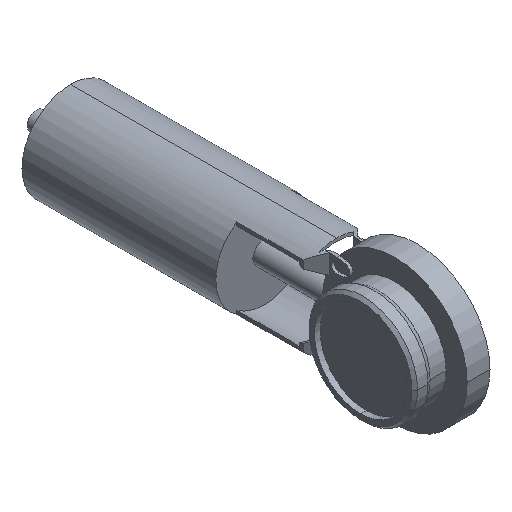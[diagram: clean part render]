
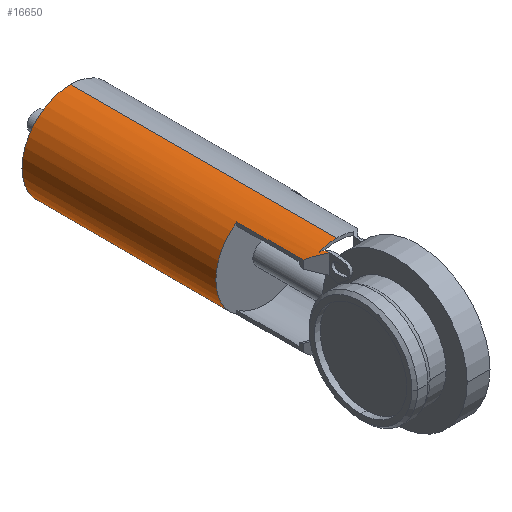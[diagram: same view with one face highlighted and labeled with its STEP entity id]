
A CAD part, isometric view. The second image highlights one B-rep face of the part: STEP entity #16650.
In plain terms, the highlighted cylindrical face has radius 42.5 mm (diameter 85 mm), a partial arc.
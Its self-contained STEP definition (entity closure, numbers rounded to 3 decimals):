
#9360=CARTESIAN_POINT('',(-113.184,106.406,
-39.743));
#9370=VERTEX_POINT('',#9360);
#9400=CARTESIAN_POINT('',(-98.126,91.348,
0.));
#9410=DIRECTION('',(0.707,0.707,0.));
#9420=DIRECTION('',(0.707,-0.707,0.));
#9430=AXIS2_PLACEMENT_3D('',#9400,#9410,#9420);
#9440=ELLIPSE('',#9430,60.104,42.5);
#9450=CARTESIAN_POINT('',(-108.126,101.348,
-41.307));
#9460=VERTEX_POINT('',#9450);
#9470=EDGE_CURVE('',#9460,#9370,#9440,.T.);
#10890=CARTESIAN_POINT('',(-110.626,93.857,
-40.62));
#10900=VERTEX_POINT('',#10890);
#10930=CARTESIAN_POINT('',(-110.626,366.667,
-40.62));
#10940=DIRECTION('',(0.,-1.,0.));
#10950=VECTOR('',#10940,1.);
#10960=LINE('',#10930,#10950);
#10970=CARTESIAN_POINT('',(-110.626,100.312,
-40.62));
#10980=VERTEX_POINT('',#10970);
#10990=EDGE_CURVE('',#10980,#10900,#10960,.T.);
#12400=CARTESIAN_POINT('',(-98.126,87.812,
0.));
#12410=DIRECTION('',(0.707,0.707,0.));
#12420=DIRECTION('',(0.707,-0.707,0.));
#12430=AXIS2_PLACEMENT_3D('',#12400,#12410,#12420);
#12440=ELLIPSE('',#12430,60.104,42.5);
#12450=CARTESIAN_POINT('',(-122.126,111.812,
-35.075));
#12460=VERTEX_POINT('',#12450);
#12470=EDGE_CURVE('',#10980,#12460,#12440,.T.);
#15390=CARTESIAN_POINT('',(-98.126,169.806,
0.));
#15400=DIRECTION('',(0.,-1.,0.));
#15410=DIRECTION('',(0.,0.,-1.));
#15420=AXIS2_PLACEMENT_3D('',#15390,#15400,#15410);
#15430=CYLINDRICAL_SURFACE('',#15420,42.5);
#15440=CARTESIAN_POINT('',(-98.126,169.806,42.5));
#15450=DIRECTION('',(0.,-1.,0.));
#15460=VECTOR('',#15450,1.);
#15470=LINE('',#15440,#15460);
#15480=CARTESIAN_POINT('',(-98.126,339.806,42.5));
#15490=VERTEX_POINT('',#15480);
#15500=CARTESIAN_POINT('',(-98.126,106.406,42.5));
#15510=VERTEX_POINT('',#15500);
#15520=EDGE_CURVE('',#15490,#15510,#15470,.T.);
#15530=ORIENTED_EDGE('',*,*,#15520,.F.);
#15540=CARTESIAN_POINT('',(-98.126,106.406,
0.));
#15550=DIRECTION('',(0.,-1.,0.));
#15560=DIRECTION('',(0.,0.,1.));
#15570=AXIS2_PLACEMENT_3D('',#15540,#15550,#15560);
#15580=CIRCLE('',#15570,42.5);
#15590=CARTESIAN_POINT('',(-113.184,106.406,
39.743));
#15600=VERTEX_POINT('',#15590);
#15610=EDGE_CURVE('',#15510,#15600,#15580,.T.);
#15620=ORIENTED_EDGE('',*,*,#15610,.F.);
#15630=CARTESIAN_POINT('',(-98.126,91.348,
0.));
#15640=DIRECTION('',(0.707,0.707,0.));
#15650=DIRECTION('',(-0.707,0.707,0.));
#15660=AXIS2_PLACEMENT_3D('',#15630,#15640,#15650);
#15670=ELLIPSE('',#15660,60.104,42.5);
#15680=CARTESIAN_POINT('',(-110.626,103.848,
40.62));
#15690=VERTEX_POINT('',#15680);
#15700=EDGE_CURVE('',#15600,#15690,#15670,.T.);
#15710=ORIENTED_EDGE('',*,*,#15700,.F.);
#15720=CARTESIAN_POINT('',(-110.626,366.667,
40.62));
#15730=DIRECTION('',(0.,-1.,0.));
#15740=VECTOR('',#15730,1.);
#15750=LINE('',#15720,#15740);
#15760=CARTESIAN_POINT('',(-110.626,100.312,
40.62));
#15770=VERTEX_POINT('',#15760);
#15780=EDGE_CURVE('',#15690,#15770,#15750,.T.);
#15790=ORIENTED_EDGE('',*,*,#15780,.F.);
#15800=CARTESIAN_POINT('',(-98.126,87.812,
0.));
#15810=DIRECTION('',(-0.707,-0.707,0.));
#15820=DIRECTION('',(0.707,-0.707,0.));
#15830=AXIS2_PLACEMENT_3D('',#15800,#15810,#15820);
#15840=ELLIPSE('',#15830,60.104,42.5);
#15850=CARTESIAN_POINT('',(-122.126,111.812,
35.075));
#15860=VERTEX_POINT('',#15850);
#15870=EDGE_CURVE('',#15770,#15860,#15840,.T.);
#15880=ORIENTED_EDGE('',*,*,#15870,.F.);
#15890=CARTESIAN_POINT('',(-122.126,366.667,
35.075));
#15900=DIRECTION('',(0.,-1.,0.));
#15910=VECTOR('',#15900,1.);
#15920=LINE('',#15890,#15910);
#15930=CARTESIAN_POINT('',(-122.126,169.806,
35.075));
#15940=VERTEX_POINT('',#15930);
#15950=EDGE_CURVE('',#15940,#15860,#15920,.T.);
#15960=ORIENTED_EDGE('',*,*,#15950,.T.);
#15970=CARTESIAN_POINT('',(-98.126,169.806,
0.));
#15980=DIRECTION('',(0.,-1.,0.));
#15990=DIRECTION('',(0.,0.,1.));
#16000=AXIS2_PLACEMENT_3D('',#15970,#15980,#15990);
#16010=CIRCLE('',#16000,42.5);
#16020=CARTESIAN_POINT('',(-122.126,169.806,
-35.075));
#16030=VERTEX_POINT('',#16020);
#16040=EDGE_CURVE('',#15940,#16030,#16010,.T.);
#16050=ORIENTED_EDGE('',*,*,#16040,.F.);
#16060=CARTESIAN_POINT('',(-122.126,366.667,
-35.075));
#16070=DIRECTION('',(0.,-1.,0.));
#16080=VECTOR('',#16070,1.);
#16090=LINE('',#16060,#16080);
#16100=EDGE_CURVE('',#16030,#12460,#16090,.T.);
#16110=ORIENTED_EDGE('',*,*,#16100,.F.);
#16120=ORIENTED_EDGE('',*,*,#12470,.T.);
#16130=ORIENTED_EDGE('',*,*,#10990,.F.);
#16140=CARTESIAN_POINT('',(-98.126,-262.662,
0.));
#16150=DIRECTION('',(0.,-0.113,-0.994));
#16160=DIRECTION('',(0.,0.994,-0.113));
#16170=AXIS2_PLACEMENT_3D('',#16140,#16150,#16160);
#16180=ELLIPSE('',#16170,375.431,42.5);
#16190=CARTESIAN_POINT('',(-108.774,98.46,
-41.145));
#16200=VERTEX_POINT('',#16190);
#16210=EDGE_CURVE('',#10900,#16200,#16180,.T.);
#16220=ORIENTED_EDGE('',*,*,#16210,.F.);
#16230=CARTESIAN_POINT('',(-98.126,87.812,
0.));
#16240=DIRECTION('',(-0.707,-0.707,0.));
#16250=DIRECTION('',(-0.707,0.707,0.));
#16260=AXIS2_PLACEMENT_3D('',#16230,#16240,#16250);
#16270=ELLIPSE('',#16260,60.104,42.5);
#16280=CARTESIAN_POINT('',(-108.126,97.812,
-41.307));
#16290=VERTEX_POINT('',#16280);
#16300=EDGE_CURVE('',#16200,#16290,#16270,.T.);
#16310=ORIENTED_EDGE('',*,*,#16300,.F.);
#16320=CARTESIAN_POINT('',(-108.126,366.667,
-41.307));
#16330=DIRECTION('',(0.,-1.,0.));
#16340=VECTOR('',#16330,1.);
#16350=LINE('',#16320,#16340);
#16360=EDGE_CURVE('',#9460,#16290,#16350,.T.);
#16370=ORIENTED_EDGE('',*,*,#16360,.T.);
#16380=ORIENTED_EDGE('',*,*,#9470,.F.);
#16390=CARTESIAN_POINT('',(-98.126,106.406,
0.));
#16400=DIRECTION('',(0.,-1.,0.));
#16410=DIRECTION('',(0.,0.,-1.));
#16420=AXIS2_PLACEMENT_3D('',#16390,#16400,#16410);
#16430=CIRCLE('',#16420,42.5);
#16440=CARTESIAN_POINT('',(-98.126,106.406,-42.5));
#16450=VERTEX_POINT('',#16440);
#16460=EDGE_CURVE('',#9370,#16450,#16430,.T.);
#16470=ORIENTED_EDGE('',*,*,#16460,.F.);
#16480=CARTESIAN_POINT('',(-98.126,169.806,-42.5));
#16490=DIRECTION('',(0.,-1.,0.));
#16500=VECTOR('',#16490,1.);
#16510=LINE('',#16480,#16500);
#16520=CARTESIAN_POINT('',(-98.126,339.806,-42.5));
#16530=VERTEX_POINT('',#16520);
#16540=EDGE_CURVE('',#16530,#16450,#16510,.T.);
#16550=ORIENTED_EDGE('',*,*,#16540,.T.);
#16560=CARTESIAN_POINT('',(-98.126,339.806,
0.));
#16570=DIRECTION('',(0.,-1.,0.));
#16580=DIRECTION('',(0.,0.,-1.));
#16590=AXIS2_PLACEMENT_3D('',#16560,#16570,#16580);
#16600=CIRCLE('',#16590,42.5);
#16610=EDGE_CURVE('',#15490,#16530,#16600,.T.);
#16620=ORIENTED_EDGE('',*,*,#16610,.T.);
#16630=EDGE_LOOP('',(#16620,#16550,#16470,#16380,#16370,#16310,#16220,
#16130,#16120,#16110,#16050,#15960,#15880,#15790,#15710,#15620,#15530));
#16640=FACE_OUTER_BOUND('',#16630,.T.);
#16650=ADVANCED_FACE('',(#16640),#15430,.T.);
